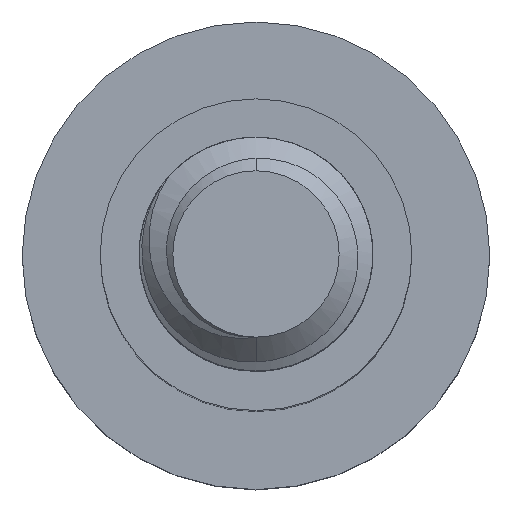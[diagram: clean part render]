
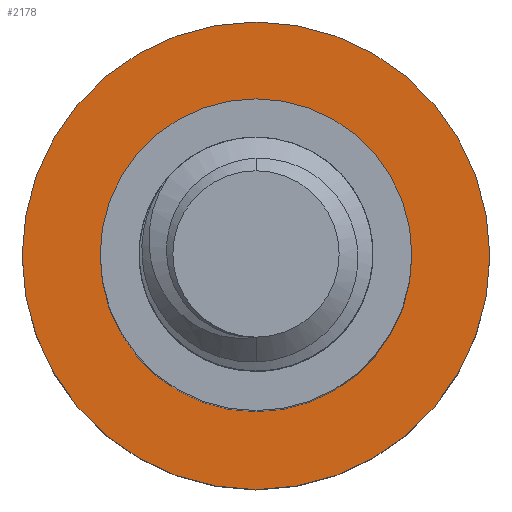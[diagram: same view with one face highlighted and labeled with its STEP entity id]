
A CAD part, top view. The second image highlights one B-rep face of the part: STEP entity #2178.
In plain terms, the highlighted planar face has unit normal (0, 0, 1).
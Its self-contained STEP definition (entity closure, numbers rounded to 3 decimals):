
#118 = PLANE ( 'NONE',  #2146 ) ;
#173 = ORIENTED_EDGE ( 'NONE', *, *, #3835, .F. ) ;
#441 = FACE_OUTER_BOUND ( 'NONE', #3299, .T. ) ;
#668 = EDGE_CURVE ( 'NONE', #3873, #839, #1176, .T. ) ;
#697 = AXIS2_PLACEMENT_3D ( 'NONE', #1716, #1414, #766 ) ;
#710 = DIRECTION ( 'NONE',  ( -1., 0., 0. ) ) ;
#766 = DIRECTION ( 'NONE',  ( -1., 0., 0. ) ) ;
#839 = VERTEX_POINT ( 'NONE', #1649 ) ;
#1134 = CARTESIAN_POINT ( 'NONE',  ( 6., 0., -16. ) ) ;
#1142 = VERTEX_POINT ( 'NONE', #3597 ) ;
#1176 = CIRCLE ( 'NONE', #1645, 4. ) ;
#1319 = CARTESIAN_POINT ( 'NONE',  ( -4., 0., -16. ) ) ;
#1414 = DIRECTION ( 'NONE',  ( 0., 0., -1. ) ) ;
#1425 = DIRECTION ( 'NONE',  ( -1., 0., 0. ) ) ;
#1619 = VERTEX_POINT ( 'NONE', #1134 ) ;
#1645 = AXIS2_PLACEMENT_3D ( 'NONE', #3793, #2859, #1848 ) ;
#1649 = CARTESIAN_POINT ( 'NONE',  ( 4., 0., -16. ) ) ;
#1716 = CARTESIAN_POINT ( 'NONE',  ( 0., 0., -16. ) ) ;
#1731 = AXIS2_PLACEMENT_3D ( 'NONE', #4222, #1937, #710 ) ;
#1751 = DIRECTION ( 'NONE',  ( 0., 0., -1. ) ) ;
#1766 = ORIENTED_EDGE ( 'NONE', *, *, #3104, .T. ) ;
#1802 = CIRCLE ( 'NONE', #697, 6. ) ;
#1848 = DIRECTION ( 'NONE',  ( -1., 0., 0. ) ) ;
#1937 = DIRECTION ( 'NONE',  ( 0., 0., -1. ) ) ;
#1979 = ORIENTED_EDGE ( 'NONE', *, *, #2623, .F. ) ;
#2146 = AXIS2_PLACEMENT_3D ( 'NONE', #2740, #1751, #1425 ) ;
#2178 = ADVANCED_FACE ( 'NONE', ( #3372, #441 ), #118, .F. ) ;
#2372 = DIRECTION ( 'NONE',  ( 0., 0., -1. ) ) ;
#2533 = EDGE_LOOP ( 'NONE', ( #3596, #1766 ) ) ;
#2623 = EDGE_CURVE ( 'NONE', #1619, #1142, #1802, .T. ) ;
#2740 = CARTESIAN_POINT ( 'NONE',  ( 0., 0., -16. ) ) ;
#2859 = DIRECTION ( 'NONE',  ( 0., 0., -1. ) ) ;
#2913 = CIRCLE ( 'NONE', #1731, 4. ) ;
#3062 = DIRECTION ( 'NONE',  ( -1., 0., 0. ) ) ;
#3104 = EDGE_CURVE ( 'NONE', #839, #3873, #2913, .T. ) ;
#3299 = EDGE_LOOP ( 'NONE', ( #1979, #173 ) ) ;
#3372 = FACE_BOUND ( 'NONE', #2533, .T. ) ;
#3400 = CARTESIAN_POINT ( 'NONE',  ( 0., 0., -16. ) ) ;
#3460 = CIRCLE ( 'NONE', #4079, 6. ) ;
#3596 = ORIENTED_EDGE ( 'NONE', *, *, #668, .T. ) ;
#3597 = CARTESIAN_POINT ( 'NONE',  ( -6., 0., -16. ) ) ;
#3793 = CARTESIAN_POINT ( 'NONE',  ( 0., 0., -16. ) ) ;
#3835 = EDGE_CURVE ( 'NONE', #1142, #1619, #3460, .T. ) ;
#3873 = VERTEX_POINT ( 'NONE', #1319 ) ;
#4079 = AXIS2_PLACEMENT_3D ( 'NONE', #3400, #2372, #3062 ) ;
#4222 = CARTESIAN_POINT ( 'NONE',  ( 0., 0., -16. ) ) ;
